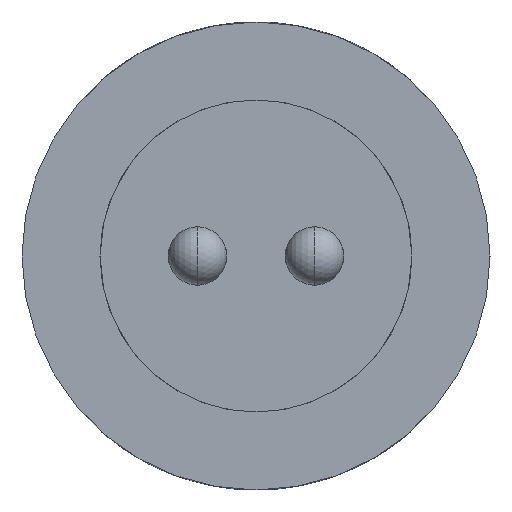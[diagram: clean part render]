
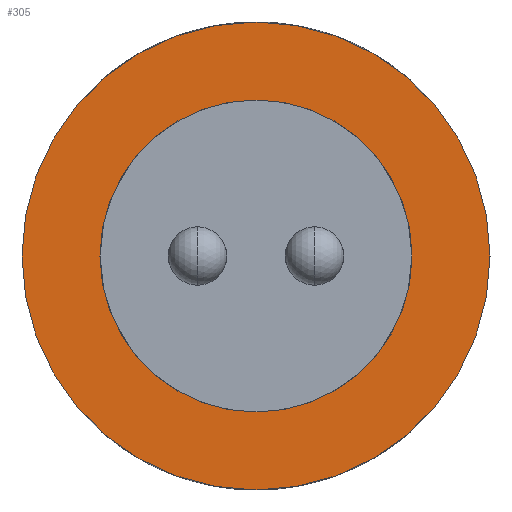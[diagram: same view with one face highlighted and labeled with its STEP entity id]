
A CAD part, left-side view. The second image highlights one B-rep face of the part: STEP entity #305.
In plain terms, the highlighted planar face has unit normal (-1, 0, 0).
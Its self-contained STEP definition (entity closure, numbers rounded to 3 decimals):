
#49 = EDGE_CURVE ( 'NONE', #866, #947, #129, .T. ) ;
#50 = DIRECTION ( 'NONE',  ( -1., 0., 0. ) ) ;
#76 = CARTESIAN_POINT ( 'NONE',  ( 0., 0., 4. ) ) ;
#82 = AXIS2_PLACEMENT_3D ( 'NONE', #439, #50, #501 ) ;
#97 = ORIENTED_EDGE ( 'NONE', *, *, #533, .T. ) ;
#129 = CIRCLE ( 'NONE', #82, 6. ) ;
#143 = DIRECTION ( 'NONE',  ( 1., 0., 0. ) ) ;
#240 = DIRECTION ( 'NONE',  ( -1., 0., 0. ) ) ;
#246 = DIRECTION ( 'NONE',  ( 0., 0., 1. ) ) ;
#289 = CIRCLE ( 'NONE', #702, 4. ) ;
#305 = ADVANCED_FACE ( 'NONE', ( #324, #658 ), #812, .F. ) ;
#309 = DIRECTION ( 'NONE',  ( -1., 0., 0. ) ) ;
#310 = CARTESIAN_POINT ( 'NONE',  ( 0., 0., 0. ) ) ;
#324 = FACE_BOUND ( 'NONE', #649, .T. ) ;
#408 = VERTEX_POINT ( 'NONE', #665 ) ;
#439 = CARTESIAN_POINT ( 'NONE',  ( 0., 0., 0. ) ) ;
#466 = EDGE_CURVE ( 'NONE', #474, #408, #693, .T. ) ;
#474 = VERTEX_POINT ( 'NONE', #76 ) ;
#501 = DIRECTION ( 'NONE',  ( 0., 0., 1. ) ) ;
#523 = DIRECTION ( 'NONE',  ( -1., 0., 0. ) ) ;
#531 = CARTESIAN_POINT ( 'NONE',  ( 0., 0., 0. ) ) ;
#533 = EDGE_CURVE ( 'NONE', #947, #866, #542, .T. ) ;
#542 = CIRCLE ( 'NONE', #662, 6. ) ;
#557 = ORIENTED_EDGE ( 'NONE', *, *, #617, .F. ) ;
#597 = CARTESIAN_POINT ( 'NONE',  ( 0., 0., 0. ) ) ;
#617 = EDGE_CURVE ( 'NONE', #408, #474, #289, .T. ) ;
#642 = CARTESIAN_POINT ( 'NONE',  ( 0., 4., 0. ) ) ;
#647 = DIRECTION ( 'NONE',  ( 0., 0., -1. ) ) ;
#649 = EDGE_LOOP ( 'NONE', ( #912, #557 ) ) ;
#655 = ORIENTED_EDGE ( 'NONE', *, *, #49, .T. ) ;
#658 = FACE_OUTER_BOUND ( 'NONE', #799, .T. ) ;
#662 = AXIS2_PLACEMENT_3D ( 'NONE', #531, #309, #667 ) ;
#665 = CARTESIAN_POINT ( 'NONE',  ( 0., 0., -4. ) ) ;
#667 = DIRECTION ( 'NONE',  ( 0., 0., 1. ) ) ;
#693 = CIRCLE ( 'NONE', #822, 4. ) ;
#702 = AXIS2_PLACEMENT_3D ( 'NONE', #597, #523, #246 ) ;
#709 = CARTESIAN_POINT ( 'NONE',  ( 0., 0., -6. ) ) ;
#730 = AXIS2_PLACEMENT_3D ( 'NONE', #642, #143, #647 ) ;
#799 = EDGE_LOOP ( 'NONE', ( #97, #655 ) ) ;
#812 = PLANE ( 'NONE',  #730 ) ;
#822 = AXIS2_PLACEMENT_3D ( 'NONE', #310, #240, #824 ) ;
#824 = DIRECTION ( 'NONE',  ( 0., 0., 1. ) ) ;
#866 = VERTEX_POINT ( 'NONE', #709 ) ;
#912 = ORIENTED_EDGE ( 'NONE', *, *, #466, .F. ) ;
#947 = VERTEX_POINT ( 'NONE', #950 ) ;
#950 = CARTESIAN_POINT ( 'NONE',  ( 0., 0., 6. ) ) ;
